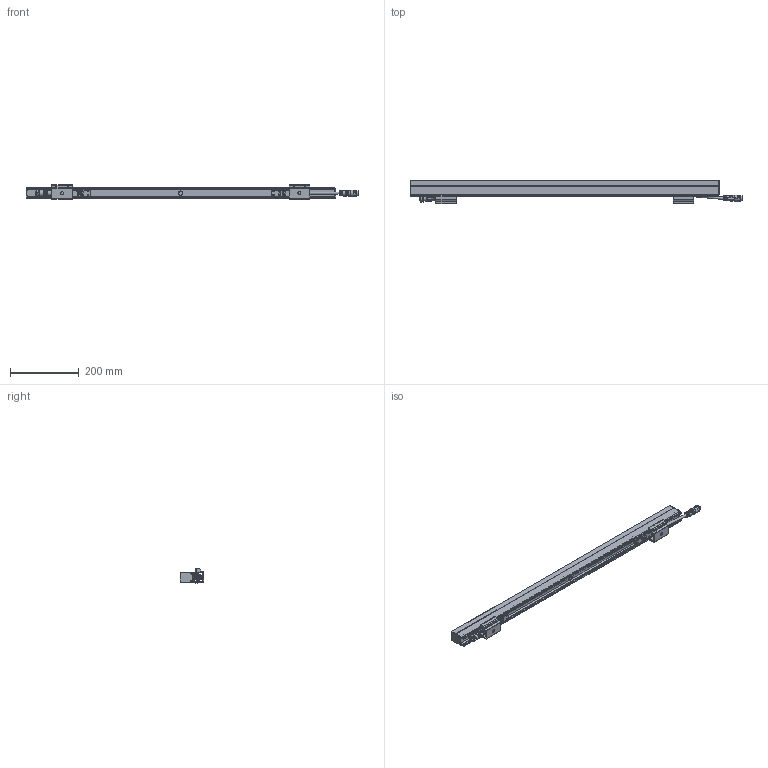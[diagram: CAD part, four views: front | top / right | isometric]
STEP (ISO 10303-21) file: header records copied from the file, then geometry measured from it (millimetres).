
FILE_DESCRIPTION (( 'STEP AP214' ), '1' );
FILE_NAME ('E series 2 Square L900.STEP', '2025-11-24T13:36:45', ( '' ), ( '' ), 'SwSTEP 2.0', 'SolidWorks 2025', '' );
FILE_SCHEMA (( 'AUTOMOTIVE_DESIGN' ));
Length unit declared in the file: millimetre
Products named in the file (12): Counter sunk screw torx_M2.5x16; M16 5p Male; E series 2 Square L900; M16 5p Female; Counter sunk screw torx_M3x16; E series 2 mounting clip top; E series 2 with square cover body_900mm; D & E Series 2 breathing valve; E series 2 mounting clip bottom; Part2^E series 2; E series 2 with dome cover body and bare config_Bare 900mm; Part1^E series 2
Assembly tree (27 placements, depth 2):
  E series 2 Square L900
    E series 2 with dome cover body and bare config_Bare 900mm
    Counter sunk screw torx_M2.5x16  x12
    E series 2 mounting clip bottom  x2
    E series 2 mounting clip top  x2
    Counter sunk screw torx_M3x16  x4
    E series 2 with square cover body_900mm
    M16 5p Female
    Part2^E series 2
    M16 5p Male
    Part1^E series 2
    D & E Series 2 breathing valve
Bounding box: 965.35 x 68.7 x 41.7 mm (x, y, z)
Volume: 1100654.5 mm3; surface area: 245296.2 mm2
Topology: 31 solids, 34 shells, 1776 faces, 4432 edges, 2801 vertices
Faces by surface type: cylinder 741, plane 626, torus 135, bspline 130, cone 118, sphere 26
Full cylindrical faces by diameter (mm): 2.4 x2, 2.5 x12, 3 x4, 4.5 x12, 5.81 x4, 9.2 x1, 11.1 x1, 14.25 x1, 14.3 x1, 18 x1
Entity records: 61924 total; most frequent: CARTESIAN_POINT 20271, ORIENTED_EDGE 7018, DIRECTION 6619, EDGE_CURVE 3509, AXIS2_PLACEMENT_3D 2559, VERTEX_POINT 2227, EDGE_LOOP 1586, VECTOR 1501
